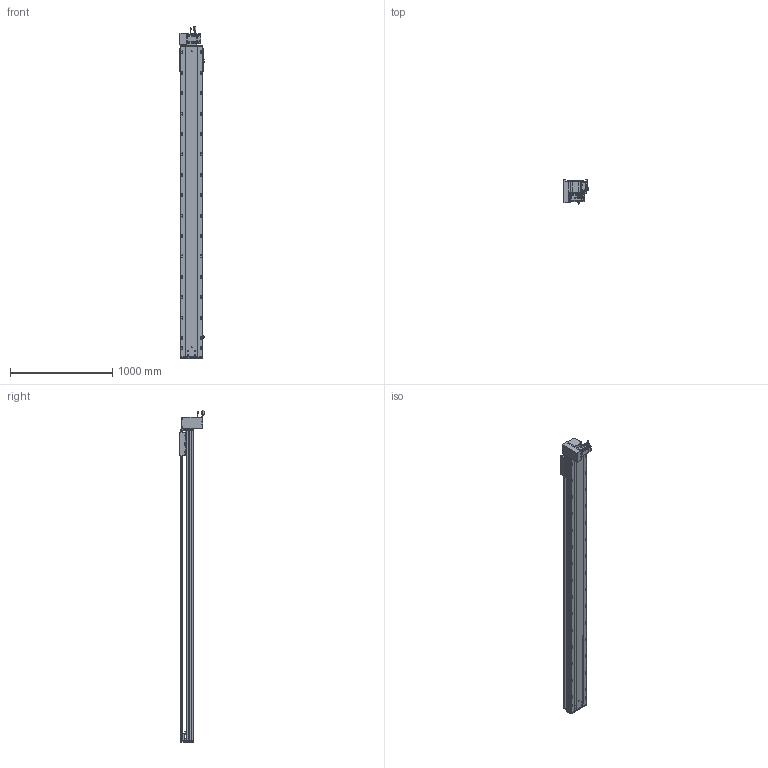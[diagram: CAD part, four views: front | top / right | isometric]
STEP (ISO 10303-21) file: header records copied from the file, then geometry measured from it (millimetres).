
FILE_DESCRIPTION (( 'STEP AP203' ), '1' );
FILE_NAME ('RY220-T-300-DL.SLDASM_2700.step', '2022-07-25T07:55:04', ( '' ), ( '' ), 'SwSTEP 2.0', 'SolidWorks 2016', '' );
FILE_SCHEMA (( 'CONFIG_CONTROL_DESIGN' ));
Length unit declared in the file: millimetre
Products named in the file (14): 怢湛750W_ECMA-CX0807ES; 覜茼ん672; 110A-T-肮祭謫釱傷裔; RY220-T菁釱-300_2700; RY220-T-300-DL.SLDASM_2700; RY220翋肮祭謫釱; RY220圉猾敕々湍臏賑輸; RY220-同步轮副支撑座6304×2; 滅袉蝶18-15; RY220-T-蛌殏萇儂假蚾啣(750W); RY220-俋离672覜茼んえ; RY220-T-300-奻裔啣_2700; RY220-T-湍謫欶(鍼踢); RY220翋肮祭謫裔啣
Assembly tree (18 placements, depth 2):
  RY220-T-300-DL.SLDASM_2700
    RY220-T菁釱-300_2700
    RY220翋肮祭謫釱
    覜茼ん672  x3
    RY220圉猾敕々湍臏賑輸
    RY220-T-300-奻裔啣_2700
    RY220-俋离672覜茼んえ
    滅袉蝶18-15  x3
    RY220翋肮祭謫裔啣  x2
    110A-T-肮祭謫釱傷裔
    怢湛750W_ECMA-CX0807ES
    RY220-T-湍謫欶(鍼踢)
    RY220-T-蛌殏萇儂假蚾啣(750W)
    RY220-同步轮副支撑座6304×2
Bounding box: 239.7 x 240.74 x 3253.27 mm (x, y, z)
Volume: 23260264.3 mm3; surface area: 7166652.2 mm2
Topology: 19 solids, 19 shells, 2974 faces, 8227 edges, 5158 vertices
Faces by surface type: cylinder 1462, plane 1069, cone 361, bspline 56, sphere 16, torus 10
Entity records: 99203 total; most frequent: CARTESIAN_POINT 28019, ORIENTED_EDGE 14714, DIRECTION 14184, EDGE_CURVE 7357, AXIS2_PLACEMENT_3D 5112, VERTEX_POINT 4782, VECTOR 3960, LINE 3960
